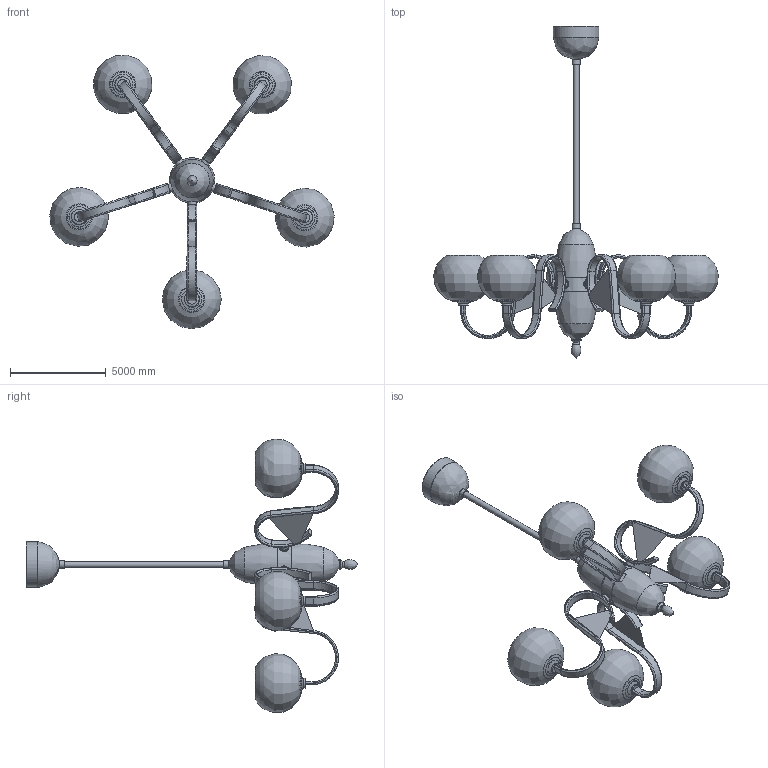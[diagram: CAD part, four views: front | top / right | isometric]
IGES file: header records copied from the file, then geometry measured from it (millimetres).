
Global section: file name: Rodzina Chandelier-5heads; native system: AutoCAD 2022 - 简体中文 (Simplified Chinese),62HAuto; preprocessor: desk Translation Framework DWG producer (atf_dwg_producer); organization: unknown; date: 20260330.095524; units: inch
Bounding box: 14877.15 x 17357.65 x 14298.57 mm (x, y, z)
Volume: 29137798434.7 mm3; surface area: 522144088.4 mm2
Topology: 62 solids, 62 shells, 517 faces, 1145 edges, 750 vertices
Faces by surface type: bspline 517
